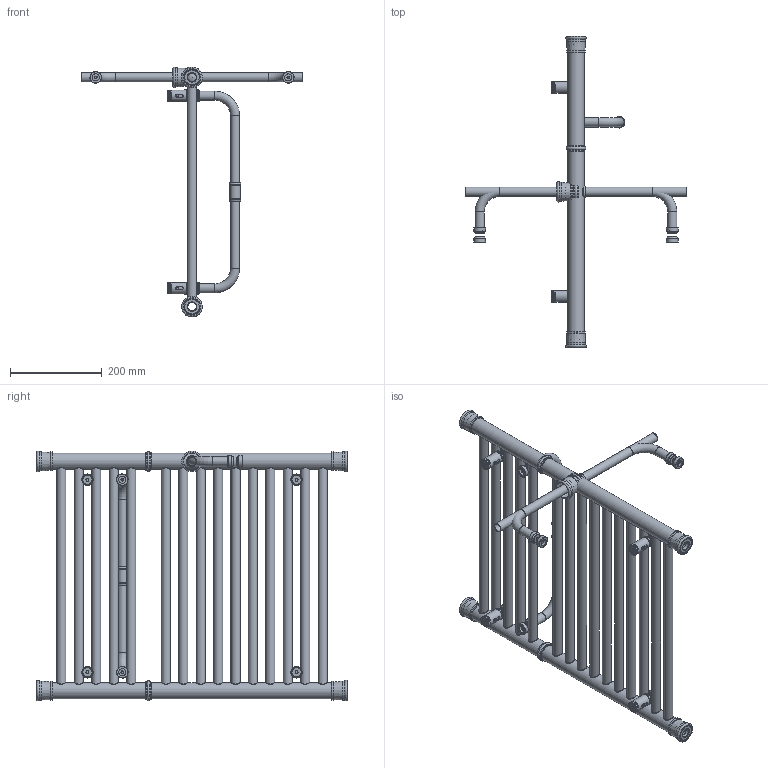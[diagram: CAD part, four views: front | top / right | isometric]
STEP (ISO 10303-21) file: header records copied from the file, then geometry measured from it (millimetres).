
FILE_DESCRIPTION( ( 'Unknown' ), '1' );
FILE_NAME( 'D:/Alplast sp. j/Witryna zespoBu - Projekty/Archiwum/Grzejniki Archiwum/Projekty/DESIGN PROGRAM/RETRO/Retro A2-500.stp', 'Unknown', ( 'Unknown' ), ( 'Unknown' ), 'PSStep 10.1', 'Unknown', ' ' );
FILE_SCHEMA( ( 'AUTOMOTIVE_DESIGN { 1 0 10303 214 1 1 1 1 }' ) );
Length unit declared in the file: millimetre
Products named in the file (45): suszarka Retro 500; katurek z wkrêtem do mocowania do  sciany; Assem1; mocowanie do œciany; Katurek fi 25 v4 ; wkrêt do katurka fi 25 v4; tulejka do mocowania grzejnika v3; mocowanie do grzejnika v3; zaœlepka do mocowania do œciany; detal-v3. par; element do suszarki do mocowania; element do suszarki do mocowania-oa0; tulejka do suszarki ; tulejka do suszarki -oa1; element do suszarki do mocowania ty³; element do suszarki do mocowania ty³-oa2; suszarka 500; pierœcieñ ozdobny 1; pierœcieñ ozdobny 1-oa3; pierœcieñ ozdobny 1-oa4; pierœcieñ ozdobny 1-oa5; pierœcieñ na rurê fi 36 w¹ski; pierœcieñ na rurê fi 36 w¹ski-oa6; Zaslepka fi 35 z gwintem ; Zaslepka fi 35 z gwintem -oa7; Zaslepka fi 35 z gwintem -oa8; Zaslepka fi 35 z gwintem -oa9; Kana³ Prosty Retro 500; Kana³ Prosty Retro 500-oa10; Kana³ Prosty Retro 500-oa11; Kana³ Prosty Retro 500-oa12; Kana³ Prosty Retro 500-oa13; Kana³ Prosty Retro 500-oa14; Kana³ Prosty Retro 500-oa15; Kana³ Prosty Retro 500-oa16; Kana³ Prosty Retro 500-oa17; Kana³ Prosty Retro 500-oa18; Kana³ Prosty Retro 500-oa19; Kana³ Prosty Retro 500-oa20; Kana³ Prosty Retro 500-oa21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
Bounding box: 484 x 678 x 544.99 mm (x, y, z)
Volume: 1897928.5 mm3; surface area: 2809348.4 mm2
Topology: 112 solids, 112 shells, 944 faces, 1896 edges, 1210 vertices
Faces by surface type: cylinder 378, plane 282, torus 189, cone 76, bspline 12, sphere 7
Full cylindrical faces by diameter (mm): 4.917 x24, 5.9 x6, 6 x27, 6.3 x6, 6.4 x6, 15.5 x6, 17.5 x6, 17.6 x41, 18.631 x8, 20 x41, 20.3 x3, 20.5 x60, 20.6 x6, 21.15 x6, 21.9 x18, 22.8 x3, 24.5 x6, 25 x21, 25.25 x6, 25.3 x6, 32 x8, 32.4 x4, 35 x12, 35.3 x4, 35.5 x8, 39 x8, 41.15 x16
Entity records: 16459 total; most frequent: CARTESIAN_POINT 7097, DIRECTION 1344, ORIENTED_EDGE 734, EDGE_LOOP 716, AXIS2_PLACEMENT_3D 668, FACE_OUTER_BOUND 535, EDGE_CURVE 367, VERTEX_POINT 364
